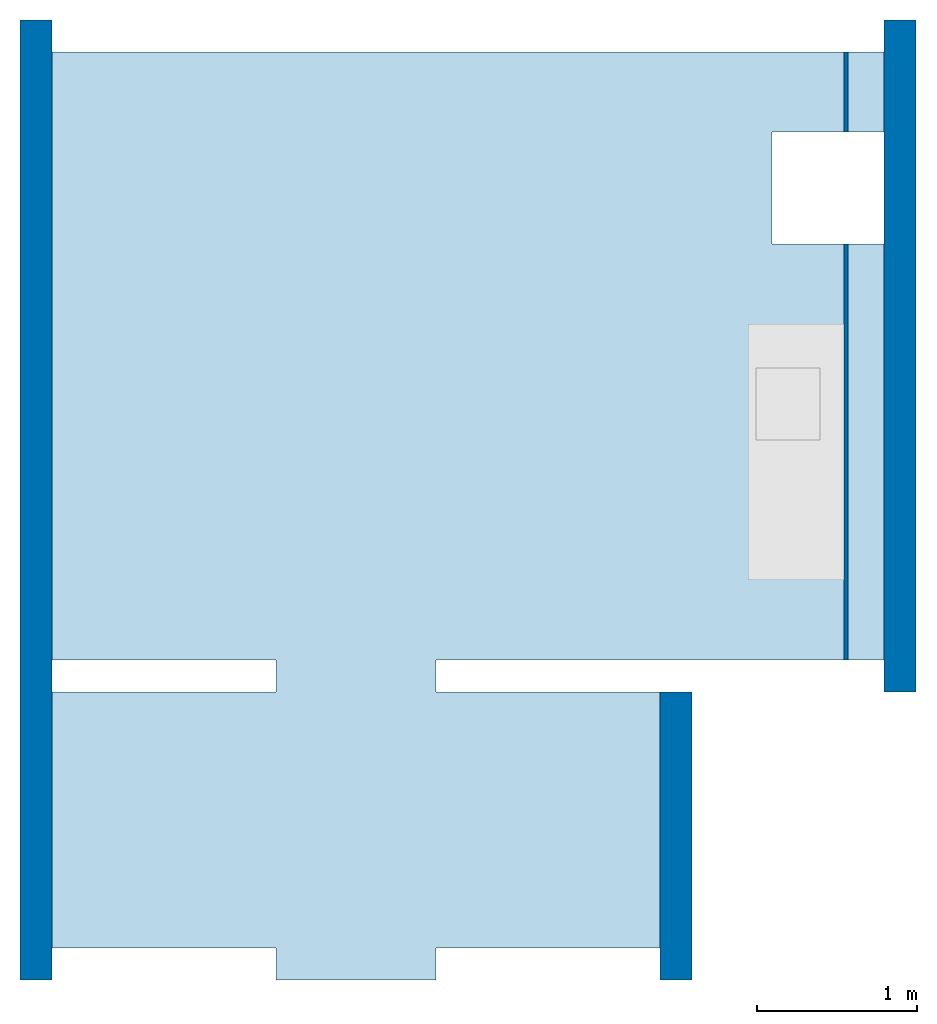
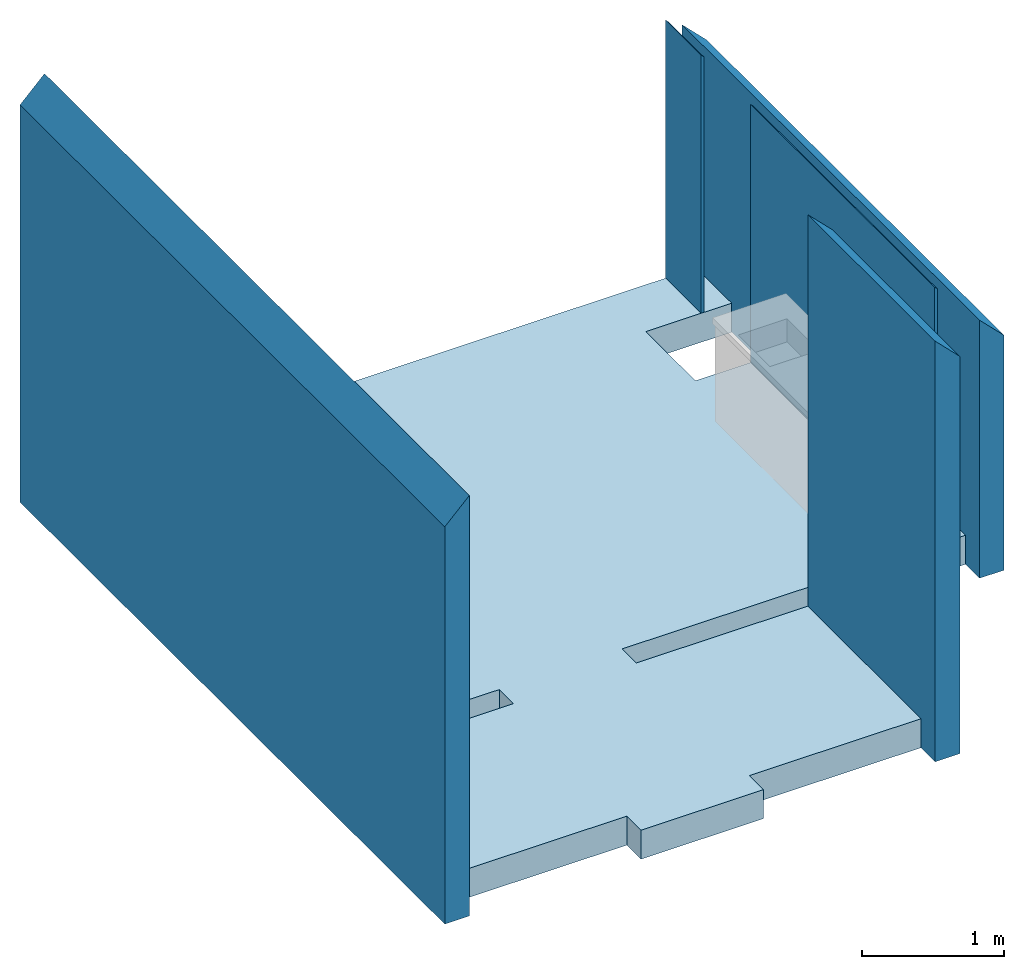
# One storey, part 1 of 2: 4 walls, 1 slab.
"""IFC4 building model written with IfcOpenShell, lengths in millimetres."""

from ifc_helpers import new_model, si_unit, frame, origin_with_axes, place, context, subcontext, project, spatial, triangles, material, type_object, element, save


model = new_model("IFC4")

# Units and contexts
model_context = context("Model", 3, world=origin_with_axes())
body_context = subcontext(model_context, "Body", "Model", "MODEL_VIEW")
ifc_project = project(units=[si_unit("LENGTHUNIT", "METRE", prefix="MILLI"), si_unit("AREAUNIT", "SQUARE_METRE"), si_unit("VOLUMEUNIT", "CUBIC_METRE")], contexts=[model_context])

# Sites, building, storey
site_1_placement = place(None, origin_with_axes())
site_1 = spatial("IfcSite", under=ifc_project, at=site_1_placement, Name="environment - site", CompositionType="COMPLEX")
site_2_placement = place(site_1_placement, frame((5800.000000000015, 5800.000000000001, -1300.0000000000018), z_axis=(0.0, 0.0, 1.0), x_axis=(1.0, 0.0, 0.0)))
site_2 = spatial("IfcSite", under=site_1, at=site_2_placement, Name="house - site", CompositionType="PARTIAL")
building_placement = place(site_2_placement, frame((-2799.999999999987, -2799.9999999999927, 1300.0), z_axis=(0.0, 0.0, 1.0), x_axis=(1.0, 0.0, 0.0)))
building = spatial("IfcBuilding", under=site_2, at=building_placement, Name="Single-family house", CompositionType="ELEMENT")
storey_placement = place(building_placement, origin_with_axes())
storey = spatial("IfcBuildingStorey", under=building, at=storey_placement, Name="00 groundfloor", CompositionType="ELEMENT", Elevation=-1.8047785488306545e-12)

# Slab
ifc_material_1 = material(Name="concrete_reinforced_in-situ")
slab_type = type_object("IfcSlabType", Name="house - groundfloor", PredefinedType="FLOOR")
slab_placement = place(storey_placement, frame((199.99999999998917, -5.775291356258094e-12, -249.99999999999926), z_axis=(0.0, 0.0, 1.0), x_axis=(1.0, 0.0, 0.0)))
element("IfcSlab", 1, at=slab_placement, inside=storey, type_object=slab_type, material=ifc_material_1, Name="floor", ObjectType="slab on grade", context=body_context, shape_type="Tessellation", body=[
    triangles([(2400.0000000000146, 0.0, 3.6095570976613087e-13), (2400.000000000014, 200.00000000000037, 250.00000000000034), (2400.000000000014, -3.6398755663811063e-13, 250.00000000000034), (2400.0000000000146, 200.0000000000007, 3.6095570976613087e-13), (3800.00000000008, 200.00000000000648, 3.6095570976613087e-13), (3800.0000000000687, 1799.9999999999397, 250.0), (3800.00000000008, 200.00000000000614, 250.00000000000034), (3800.0000000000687, 1799.99999999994, 0.0), (2400.0000000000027, 1799.9999999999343, 3.6095570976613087e-13), (3800.0000000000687, 1799.9999999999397, 250.0), (3800.0000000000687, 1799.99999999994, 0.0), (2400.0000000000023, 1799.9999999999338, 250.00000000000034), (1399.999999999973, 1999.999999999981, 250.00000000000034), (1399.999999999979, 1800.0000000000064, 3.6095570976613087e-13), (1399.9999999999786, 1800.0000000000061, 250.00000000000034), (1399.9999999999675, 1999.9999999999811, 3.6095570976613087e-13), (2400.000000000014, -3.6398755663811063e-13, 250.00000000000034), (1399.999999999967, 200.00000000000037, 250.00000000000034), (1399.999999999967, -3.6398755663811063e-13, 250.00000000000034), (1399.9999999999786, 1800.0000000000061, 250.00000000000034), (2400.0000000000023, 1799.9999999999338, 250.00000000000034), (2400.000000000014, 200.00000000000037, 250.00000000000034), (3800.0000000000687, 1799.9999999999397, 250.0), (3800.00000000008, 200.00000000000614, 250.00000000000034), (2400.0000000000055, 1999.999999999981, 250.00000000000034), (4500.0000000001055, 4599.99999999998, 250.00000000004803), (4500.000000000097, 5299.999999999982, 250.00000000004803), (5200.000000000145, 2000.0000000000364, 250.00000000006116), (5200.0000000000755, 4599.999999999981, 250.00000000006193), (-8.696776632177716e-11, 5800.000000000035, 250.0000000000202), (5200.000000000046, 5800.000000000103, 250.00000000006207), (-3.383959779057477e-13, 1999.9999999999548, 250.00000000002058), (1399.999999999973, 1999.999999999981, 250.00000000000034), (5200.000000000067, 5299.999999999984, 250.00000000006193), (2.5650415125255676e-11, 1800.0000000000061, 250.00000000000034), (2.5650415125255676e-11, 200.0000000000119, 250.00000000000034), (-8.662937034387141e-11, 5800.0000000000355, 2.0213519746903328e-11), (4500.0000000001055, 5299.999999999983, -3.2756730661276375e-11), (-5.775291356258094e-12, 1999.9999999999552, 2.057447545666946e-11), (5200.000000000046, 5800.000000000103, 6.228741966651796e-11), (1399.9999999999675, 1999.9999999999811, 3.6095570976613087e-13), (1399.999999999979, 1800.0000000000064, 3.6095570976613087e-13), (2400.0000000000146, 1999.9999999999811, 3.6095570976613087e-13), (2400.0000000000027, 1799.9999999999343, 3.6095570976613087e-13), (5200.0000000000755, 5299.9999999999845, -1.8769696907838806e-11), (4500.0000000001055, 4599.99999999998, -3.2756730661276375e-11), (5200.000000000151, 2000.0000000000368, 6.120455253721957e-11), (5200.0000000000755, 4599.999999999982, -1.8769696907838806e-11), (3800.0000000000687, 1799.99999999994, 0.0), (2400.0000000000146, 200.0000000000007, 3.6095570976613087e-13), (3800.00000000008, 200.00000000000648, 3.6095570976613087e-13), (2.5988811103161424e-11, 200.00000000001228, 3.6095570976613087e-13), (2.5988811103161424e-11, 1800.0000000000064, 3.6095570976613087e-13), (1399.9999999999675, 200.0000000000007, 3.6095570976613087e-13), (1399.9999999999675, 0.0, 3.6095570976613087e-13), (2400.0000000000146, 0.0, 3.6095570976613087e-13), (2.5650415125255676e-11, 1800.0000000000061, 250.00000000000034), (1399.999999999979, 1800.0000000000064, 3.6095570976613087e-13), (2.5988811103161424e-11, 1800.0000000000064, 3.6095570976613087e-13), (1399.9999999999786, 1800.0000000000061, 250.00000000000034), (2.5650415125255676e-11, 1800.0000000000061, 250.00000000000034), (2.5988811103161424e-11, 200.00000000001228, 3.6095570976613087e-13), (2.5650415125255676e-11, 200.0000000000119, 250.00000000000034), (2.5988811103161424e-11, 1800.0000000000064, 3.6095570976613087e-13), (1399.999999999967, 200.00000000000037, 250.00000000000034), (2.5988811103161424e-11, 200.00000000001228, 3.6095570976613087e-13), (1399.9999999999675, 200.0000000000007, 3.6095570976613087e-13), (2.5650415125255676e-11, 200.0000000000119, 250.00000000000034), (3800.00000000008, 200.00000000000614, 250.00000000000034), (2400.0000000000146, 200.0000000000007, 3.6095570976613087e-13), (3800.00000000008, 200.00000000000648, 3.6095570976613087e-13), (2400.000000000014, 200.00000000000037, 250.00000000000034), (2400.0000000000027, 1799.9999999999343, 3.6095570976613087e-13), (2400.0000000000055, 1999.999999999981, 250.00000000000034), (2400.0000000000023, 1799.9999999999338, 250.00000000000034), (2400.0000000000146, 1999.9999999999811, 3.6095570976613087e-13), (-8.696776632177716e-11, 5800.000000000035, 250.0000000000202), (5200.000000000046, 5800.000000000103, 6.228741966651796e-11), (-8.662937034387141e-11, 5800.0000000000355, 2.0213519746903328e-11), (5200.000000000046, 5800.000000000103, 250.00000000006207), (2400.000000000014, -3.6398755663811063e-13, 250.00000000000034), (1399.9999999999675, 0.0, 3.6095570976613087e-13), (2400.0000000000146, 0.0, 3.6095570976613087e-13), (1399.999999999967, -3.6398755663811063e-13, 250.00000000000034), (1399.999999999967, 200.00000000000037, 250.00000000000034), (1399.9999999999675, 0.0, 3.6095570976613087e-13), (1399.999999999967, -3.6398755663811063e-13, 250.00000000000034), (1399.9999999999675, 200.0000000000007, 3.6095570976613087e-13), (-8.696776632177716e-11, 5800.000000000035, 250.0000000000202), (-5.775291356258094e-12, 1999.9999999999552, 2.057447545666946e-11), (-3.383959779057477e-13, 1999.9999999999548, 250.00000000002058), (-8.662937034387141e-11, 5800.0000000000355, 2.0213519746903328e-11), (1399.999999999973, 1999.999999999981, 250.00000000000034), (-5.775291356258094e-12, 1999.9999999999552, 2.057447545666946e-11), (1399.9999999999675, 1999.9999999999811, 3.6095570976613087e-13), (-3.383959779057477e-13, 1999.9999999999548, 250.00000000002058), (5200.000000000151, 2000.0000000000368, 6.120455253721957e-11), (5200.0000000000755, 4599.999999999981, 250.00000000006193), (5200.000000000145, 2000.0000000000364, 250.00000000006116), (5200.0000000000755, 4599.999999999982, -1.8769696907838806e-11), (5200.000000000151, 2000.0000000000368, 6.120455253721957e-11), (2400.0000000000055, 1999.999999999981, 250.00000000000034), (2400.0000000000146, 1999.9999999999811, 3.6095570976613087e-13), (5200.000000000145, 2000.0000000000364, 250.00000000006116), (5200.0000000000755, 5299.9999999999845, -1.8769696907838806e-11), (5200.000000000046, 5800.000000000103, 250.00000000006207), (5200.000000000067, 5299.999999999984, 250.00000000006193), (5200.000000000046, 5800.000000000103, 6.228741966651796e-11), (4500.0000000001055, 4599.99999999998, -3.2756730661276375e-11), (4500.000000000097, 5299.999999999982, 250.00000000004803), (4500.0000000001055, 4599.99999999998, 250.00000000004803), (4500.0000000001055, 5299.999999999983, -3.2756730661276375e-11), (5200.0000000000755, 5299.9999999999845, -1.8769696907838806e-11), (4500.000000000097, 5299.999999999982, 250.00000000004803), (4500.0000000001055, 5299.999999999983, -3.2756730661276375e-11), (5200.000000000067, 5299.999999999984, 250.00000000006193), (4500.0000000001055, 4599.99999999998, 250.00000000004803), (5200.0000000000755, 4599.999999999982, -1.8769696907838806e-11), (4500.0000000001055, 4599.99999999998, -3.2756730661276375e-11), (5200.0000000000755, 4599.999999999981, 250.00000000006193)], [[1, 2, 3], [2, 1, 4], [5, 6, 7], [6, 5, 8], [9, 10, 11], [10, 9, 12], [13, 14, 15], [14, 13, 16], [17, 18, 19], [18, 17, 20], [20, 17, 21], [21, 17, 22], [21, 22, 23], [23, 22, 24], [25, 26, 27], [26, 25, 28], [26, 28, 29], [30, 27, 31], [27, 30, 32], [27, 32, 33], [27, 33, 20], [27, 20, 25], [25, 20, 21], [31, 27, 34], [18, 35, 36], [35, 18, 20], [37, 38, 39], [38, 37, 40], [39, 38, 41], [41, 38, 42], [42, 38, 43], [42, 43, 44], [38, 40, 45], [43, 46, 47], [46, 43, 38], [47, 46, 48], [49, 50, 44], [50, 49, 51], [42, 52, 53], [52, 42, 54], [54, 42, 55], [55, 42, 56], [56, 42, 44], [56, 44, 50], [57, 58, 59], [58, 57, 60], [61, 62, 63], [62, 61, 64], [65, 66, 67], [66, 65, 68], [69, 70, 71], [70, 69, 72], [73, 74, 75], [74, 73, 76], [77, 78, 79], [78, 77, 80], [81, 82, 83], [82, 81, 84], [85, 86, 87], [86, 85, 88], [89, 90, 91], [90, 89, 92], [93, 94, 95], [94, 93, 96], [97, 98, 99], [98, 97, 100], [101, 102, 103], [102, 101, 104], [105, 106, 107], [106, 105, 108], [109, 110, 111], [110, 109, 112], [113, 114, 115], [114, 113, 116], [117, 118, 119], [118, 117, 120]]),
])

# Walls
ifc_material_2 = material(Name="stone_sand-lime")
wall_type_1 = type_object("IfcWallType", Name="house - outer wall - house right front", PredefinedType="SOLIDWALL")
wall_1_placement = place(storey_placement, frame((4100.000000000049, 1799.9999999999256, -6.316724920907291e-12), z_axis=(3.747089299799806e-30, 3.2836943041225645e-15, 1.0), x_axis=(2.525757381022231e-14, -1.0, 3.2836943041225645e-15)))
element("IfcWall", 2, at=wall_1_placement, inside=storey, type_object=wall_type_1, material=ifc_material_2, Name="house - outer wall - house right front", ObjectType="solidwall", context=body_context, shape_type="Tessellation", body=[
    triangles([(1.0828671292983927e-11, 99.9999999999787, 3175.7359312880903), (1799.9999999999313, 99.9999999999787, -250.00000000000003), (3.6095570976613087e-13, 99.9999999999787, -250.00000000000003), (1799.9999999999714, 99.9999999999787, 3175.7359312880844), (1799.9999999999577, -100.00000000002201, 3375.7359312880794), (4.33146851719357e-12, -99.99999999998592, -249.99999999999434), (1799.999999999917, -100.00000000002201, -250.00000000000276), (1.4799184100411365e-11, -99.9999999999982, 3375.735931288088), (1.0828671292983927e-11, 99.9999999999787, 3175.7359312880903), (4.33146851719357e-12, -99.99999999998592, -249.99999999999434), (1.4799184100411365e-11, -99.9999999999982, 3375.735931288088), (3.6095570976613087e-13, 99.9999999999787, -250.00000000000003), (1799.9999999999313, 99.9999999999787, -250.00000000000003), (4.33146851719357e-12, -99.99999999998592, -249.99999999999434), (3.6095570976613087e-13, 99.9999999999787, -250.00000000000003), (1799.999999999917, -100.00000000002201, -250.00000000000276), (1.0828671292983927e-11, 99.9999999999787, 3175.7359312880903), (1799.9999999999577, -100.00000000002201, 3375.7359312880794), (1799.9999999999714, 99.9999999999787, 3175.7359312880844), (1.4799184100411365e-11, -99.9999999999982, 3375.735931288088), (1799.9999999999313, 99.9999999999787, -250.00000000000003), (1799.9999999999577, -100.00000000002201, 3375.7359312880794), (1799.999999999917, -100.00000000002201, -250.00000000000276), (1799.9999999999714, 99.9999999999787, 3175.7359312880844)], [[1, 2, 3], [2, 1, 4], [5, 6, 7], [6, 5, 8], [9, 10, 11], [10, 9, 12], [13, 14, 15], [14, 13, 16], [17, 18, 19], [18, 17, 20], [21, 22, 23], [22, 21, 24]]),
])
wall_type_2 = type_object("IfcWallType", Name="house - outer wall - house right back", PredefinedType="SOLIDWALL")
wall_2_placement = place(storey_placement, frame((5500.00000000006, 5999.999999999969, -2.7793589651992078e-11), z_axis=(0.0, 0.0, 1.0), x_axis=(-1.1657341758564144e-15, -1.0, 0.0)))
element("IfcWall", 3, at=wall_2_placement, inside=storey, type_object=wall_type_2, material=ifc_material_2, Name="house - outer wall - house right back", ObjectType="solidwall", context=body_context, shape_type="Tessellation", body=[
    triangles([(3.248601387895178e-11, 100.00000000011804, 1775.7359312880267), (4200.000000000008, 99.99999999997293, -250.0), (-1.8769696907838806e-11, 99.99999999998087, -250.0), (4200.000000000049, 99.99999999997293, 1775.7359312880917), (4200.000000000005, -100.0000000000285, -249.99999999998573), (4200.000000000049, 99.99999999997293, 1775.7359312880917), (4200.000000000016, -100.000000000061, 1975.7359312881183), (4200.000000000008, 99.99999999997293, -250.0), (4200.000000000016, -100.000000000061, 1975.7359312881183), (1.3716316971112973e-11, -99.99999999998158, -249.99999999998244), (4200.000000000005, -100.0000000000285, -249.99999999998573), (2.093543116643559e-11, -99.9999999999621, 1975.73593128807), (4200.000000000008, 99.99999999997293, -250.0), (1.3716316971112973e-11, -99.99999999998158, -249.99999999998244), (-1.8769696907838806e-11, 99.99999999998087, -250.0), (4200.000000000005, -100.0000000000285, -249.99999999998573), (2.093543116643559e-11, -99.9999999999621, 1975.73593128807), (-1.8769696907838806e-11, 99.99999999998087, -250.0), (1.3716316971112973e-11, -99.99999999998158, -249.99999999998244), (3.248601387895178e-11, 100.00000000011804, 1775.7359312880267), (4200.000000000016, -100.000000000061, 1975.7359312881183), (3.248601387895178e-11, 100.00000000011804, 1775.7359312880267), (2.093543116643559e-11, -99.9999999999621, 1975.73593128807), (4200.000000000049, 99.99999999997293, 1775.7359312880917)], [[1, 2, 3], [2, 1, 4], [5, 6, 7], [6, 5, 8], [9, 10, 11], [10, 9, 12], [13, 14, 15], [14, 13, 16], [17, 18, 19], [18, 17, 20], [21, 22, 23], [22, 21, 24]]),
])
wall_type_3 = type_object("IfcWallType", Name="house - outer wall - house left", PredefinedType="SOLIDWALL")
wall_3_placement = place(storey_placement, frame((99.9999999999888, 5.775291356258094e-12, -1.8047785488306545e-12), z_axis=(0.0, 0.0, 1.0), x_axis=(1.3322676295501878e-15, 1.0, 0.0)))
element("IfcWall", 4, at=wall_3_placement, inside=storey, type_object=wall_type_3, material=ifc_material_2, Name="house - outer wall - house left", ObjectType="solidwall", context=body_context, shape_type="Tessellation", body=[
    triangles([(5999.999999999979, -100.00000000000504, -249.9999999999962), (-1.732587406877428e-11, -100.00000000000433, 3375.735931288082), (1.1550582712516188e-11, -100.00000000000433, -250.00000000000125), (5999.999999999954, -100.00000000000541, 3375.735931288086), (5999.999999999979, -100.00000000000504, -249.9999999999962), (5999.999999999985, 100.00000000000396, 3175.735931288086), (5999.999999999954, -100.00000000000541, 3375.735931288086), (6000.0, 100.00000000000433, -249.99999999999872), (-3.681748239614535e-11, 100.00000000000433, 3175.735931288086), (6000.0, 100.00000000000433, -249.99999999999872), (-7.941025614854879e-12, 100.00000000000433, -249.99999999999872), (5999.999999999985, 100.00000000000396, 3175.735931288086), (6000.0, 100.00000000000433, -249.99999999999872), (1.1550582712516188e-11, -100.00000000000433, -250.00000000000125), (-7.941025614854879e-12, 100.00000000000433, -249.99999999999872), (5999.999999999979, -100.00000000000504, -249.9999999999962), (-1.732587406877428e-11, -100.00000000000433, 3375.735931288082), (5999.999999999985, 100.00000000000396, 3175.735931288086), (-3.681748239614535e-11, 100.00000000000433, 3175.735931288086), (5999.999999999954, -100.00000000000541, 3375.735931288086), (-3.681748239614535e-11, 100.00000000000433, 3175.735931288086), (1.1550582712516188e-11, -100.00000000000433, -250.00000000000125), (-1.732587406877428e-11, -100.00000000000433, 3375.735931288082), (-7.941025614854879e-12, 100.00000000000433, -249.99999999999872)], [[1, 2, 3], [2, 1, 4], [5, 6, 7], [6, 5, 8], [9, 10, 11], [10, 9, 12], [13, 14, 15], [14, 13, 16], [17, 18, 19], [18, 17, 20], [21, 22, 23], [22, 21, 24]]),
])
ifc_material_3 = material(Name="gypsum_fiber-board_panel")
wall_type_4 = type_object("IfcWallType", Name="plumbing wall", PredefinedType="PLUMBINGWALL")
placement = place(storey_placement, frame((5150.000000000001, 2000.0000000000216, 4.981188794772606e-11), z_axis=(0.0, 0.0, 1.0), x_axis=(1.0, 0.0, 0.0)))
wall_4_placement = place(placement, frame((250.0000000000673, 3800.0000000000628, 1.8047785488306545e-12), z_axis=(0.0, 0.0, 1.0), x_axis=(-1.2663699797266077e-15, -1.0, 0.0)))
element("IfcWall", 5, at=wall_4_placement, inside=storey, type_object=wall_type_4, material=ifc_material_3, Name="plumbing wall", ObjectType="plumbingwall", context=body_context, shape_type="Tessellation", body=[
    triangles([(3800.0000000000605, -225.9999999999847, 9.132995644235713e-13), (1200.0000000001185, -249.99999999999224, -1.7199286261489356e-12), (1200.0000000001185, -225.99999999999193, -1.7262057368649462e-12), (3800.000000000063, -249.99999999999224, -1.7199286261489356e-12), (-2.1657342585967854e-11, -250.0000000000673, 2225.7359312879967), (500.00000000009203, -226.00000000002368, 2201.735931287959), (-2.2379254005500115e-11, -226.00000000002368, 2201.7359312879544), (500.0000000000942, -250.0000000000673, 2225.7359312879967), (500.0000000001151, -226.00000000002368, 5.2146585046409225e-12), (0.0, -250.000000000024, 0.0), (0.0, -226.00000000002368, 3.614785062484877e-14), (500.00000000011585, -250.000000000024, 0.0), (500.0000000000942, -250.0000000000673, 2225.7359312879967), (0.0, -250.000000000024, 0.0), (500.00000000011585, -250.000000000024, 0.0), (-2.1657342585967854e-11, -250.0000000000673, 2225.7359312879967), (500.00000000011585, -250.000000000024, 0.0), (500.00000000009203, -226.00000000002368, 2201.735931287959), (500.0000000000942, -250.0000000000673, 2225.7359312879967), (500.0000000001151, -226.00000000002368, 5.2146585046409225e-12), (3800.000000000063, -249.99999999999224, -1.7199286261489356e-12), (3800.0000000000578, -225.9999999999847, 2201.735931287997), (3800.000000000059, -250.00000000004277, 2225.7359312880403), (3800.0000000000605, -225.9999999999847, 9.132995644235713e-13), (3800.000000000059, -250.00000000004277, 2225.7359312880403), (1200.0000000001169, -225.99999999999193, 2201.7359312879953), (1200.0000000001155, -250.00000000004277, 2225.7359312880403), (3800.0000000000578, -225.9999999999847, 2201.735931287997), (3800.000000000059, -250.00000000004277, 2225.7359312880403), (1200.0000000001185, -249.99999999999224, -1.7199286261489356e-12), (3800.000000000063, -249.99999999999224, -1.7199286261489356e-12), (1200.0000000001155, -250.00000000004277, 2225.7359312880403), (-2.2379254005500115e-11, -226.00000000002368, 2201.7359312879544), (0.0, -250.000000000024, 0.0), (-2.1657342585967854e-11, -250.0000000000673, 2225.7359312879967), (0.0, -226.00000000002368, 3.614785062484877e-14), (-2.2379254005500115e-11, -226.00000000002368, 2201.7359312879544), (500.0000000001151, -226.00000000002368, 5.2146585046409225e-12), (0.0, -226.00000000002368, 3.614785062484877e-14), (500.00000000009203, -226.00000000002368, 2201.735931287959), (1200.0000000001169, -225.99999999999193, 2201.7359312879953), (1200.0000000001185, -249.99999999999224, -1.7199286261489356e-12), (1200.0000000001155, -250.00000000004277, 2225.7359312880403), (1200.0000000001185, -225.99999999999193, -1.7262057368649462e-12), (1200.0000000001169, -225.99999999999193, 2201.7359312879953), (3800.0000000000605, -225.9999999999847, 9.132995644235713e-13), (1200.0000000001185, -225.99999999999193, -1.7262057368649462e-12), (3800.0000000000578, -225.9999999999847, 2201.735931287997)], [[1, 2, 3], [2, 1, 4], [5, 6, 7], [6, 5, 8], [9, 10, 11], [10, 9, 12], [13, 14, 15], [14, 13, 16], [17, 18, 19], [18, 17, 20], [21, 22, 23], [22, 21, 24], [25, 26, 27], [26, 25, 28], [29, 30, 31], [30, 29, 32], [33, 34, 35], [34, 33, 36], [37, 38, 39], [38, 37, 40], [41, 42, 43], [42, 41, 44], [45, 46, 47], [46, 45, 48]]),
])

save(model, "model.ifc")
